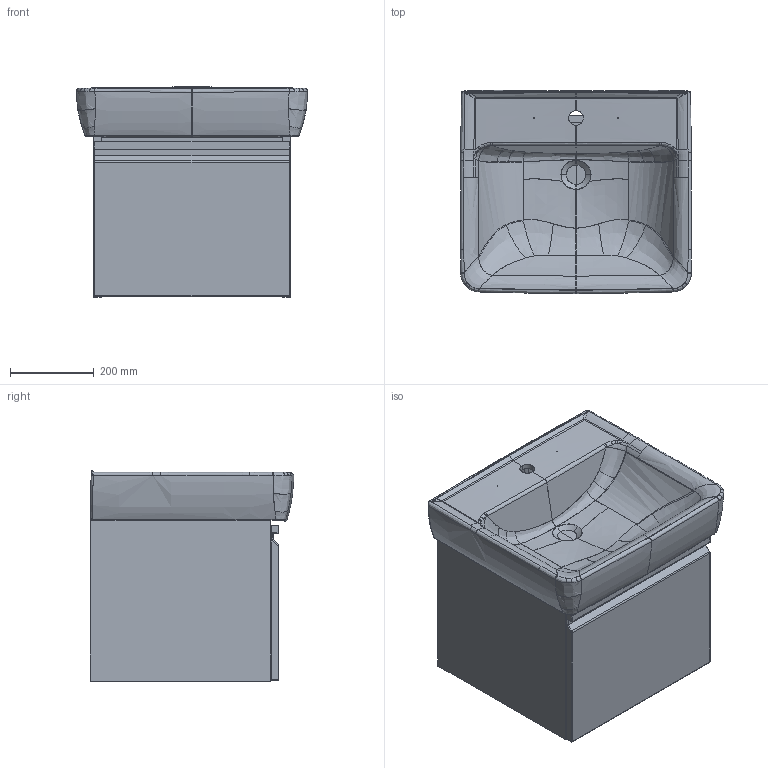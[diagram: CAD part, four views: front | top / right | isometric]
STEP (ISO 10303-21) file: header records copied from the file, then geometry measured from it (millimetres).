
FILE_DESCRIPTION(/* description */ (''),/* implementation_level */ '2;1');
FILE_NAME(/* name */ 'C:\Users\User33\Desktop\Pro A\3D01_483023.stp',/* time_stamp */ '2018-05-21T11:20:34+02:00',/* author */ ('User33'),/* organization */ (''),/* preprocessor_version */ 'ST-DEVELOPER v16.13',/* originating_system */ 'Autodesk Inventor 2018',/* authorisation */ '');
FILE_SCHEMA (('AUTOMOTIVE_DESIGN { 1 0 10303 214 3 1 1 }'));
Products named in the file (22): 3D01_483023; 3D01_483023_1_1; 3D01_483023_1; 3D01_483023_1_2; 3D01_483023_2; 3D01_483023_3; 3D01_483023_4; 3D01_483023_5; 3D01_483023_6; 3D01_483023_7; 3D01_483023_8; 3D01_483023_9; 3D01_483023_10; 3D01_483023_11; 3D01_483023_12; 3D01_483023_13; 3D01_483023_14; 3D01_483023_15; 3D01_483023_16; 3D01_483023_17; 3D01_483023_18; 3D01_483023_19
Assembly tree (21 placements, depth 2):
  3D01_483023
    3D01_483023_1_1
    3D01_483023_1
    3D01_483023_1_2
    3D01_483023_2
    3D01_483023_3
    3D01_483023_4
    3D01_483023_5
    3D01_483023_6
    3D01_483023_7
    3D01_483023_8
    3D01_483023_9
    3D01_483023_10
    3D01_483023_11
    3D01_483023_12
    3D01_483023_13
    3D01_483023_14
    3D01_483023_15
    3D01_483023_16
    3D01_483023_17
    3D01_483023_18
    3D01_483023_19
Bounding box: 551.07 x 485.02 x 501.06 mm (x, y, z)
Volume: 16582899.6 mm3; surface area: 3171651.8 mm2
Topology: 20 solids, 630 shells, 1164 faces, 4407 edges, 3884 vertices
Faces by surface type: bspline 548, plane 422, cylinder 184, sphere 4, cone 4, torus 2
Entity records: 85650 total; most frequent: CARTESIAN_POINT 53644, ORIENTED_EDGE 5796, EDGE_CURVE 4368, DIRECTION 4128, VERTEX_POINT 3880, B_SPLINE_CURVE_WITH_KNOTS 2177, LINE 1572, VECTOR 1572
